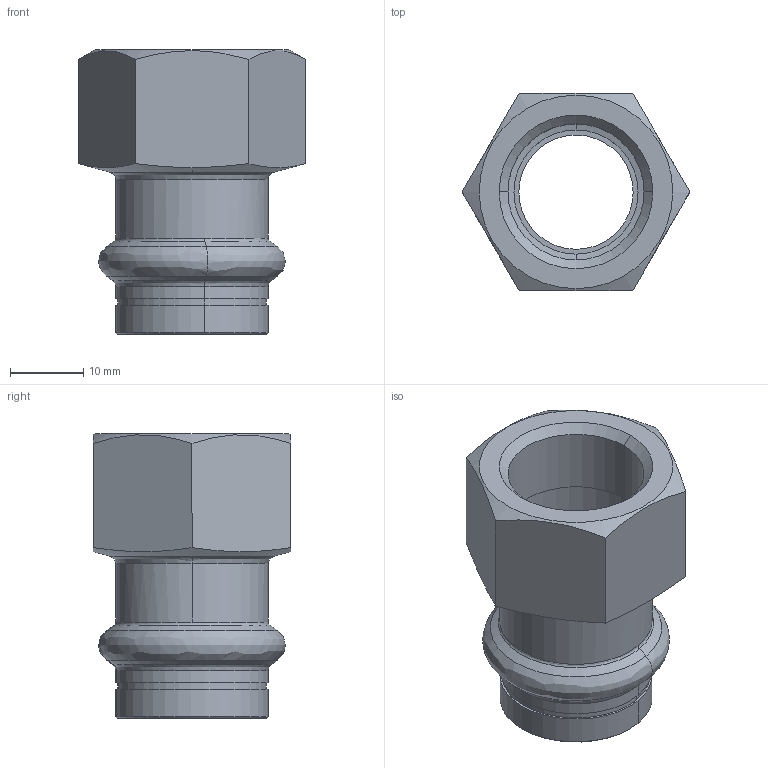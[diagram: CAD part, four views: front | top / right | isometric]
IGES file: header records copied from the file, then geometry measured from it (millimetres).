
Start section: Elysium IGES Interface
Global section: file name: C:\3d modellen sudo\C-Pr VP\SP8270GV\8270GVW1812.igs; native system: CoCreate Modeling 17.00A  17-Jun-2010; preprocessor: CoCreate IGES_3D V2.2; author: Unknown; organization: Unknown; date: 20130305.110629; units: millimetre
Bounding box: 31.18 x 27 x 39 mm (x, y, z)
Volume: 7992 mm3; surface area: 6380 mm2
Topology: 1 solids, 1 shells, 60 faces, 140 edges, 86 vertices
Faces by surface type: bspline 60
